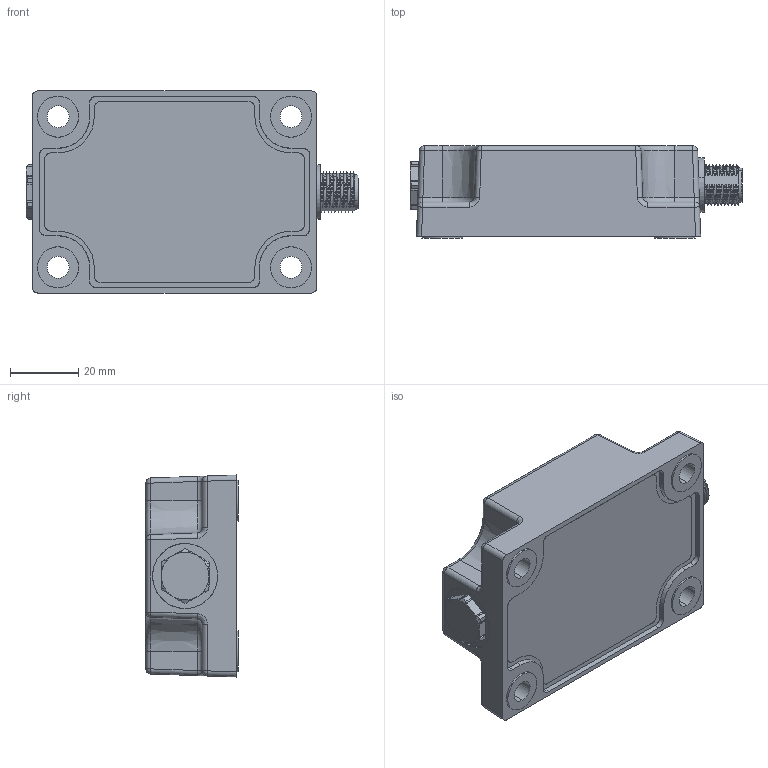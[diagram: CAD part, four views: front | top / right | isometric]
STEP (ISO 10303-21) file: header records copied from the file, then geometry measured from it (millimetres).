
FILE_DESCRIPTION (( 'STEP AP203' ), '1' );
FILE_NAME ('ACS-xxx-x-Sxxx-xK2-PM.STEP', '2014-04-09T09:54:54', ( '' ), ( '' ), 'SwSTEP 2.0', 'SolidWorks 2014', '' );
FILE_SCHEMA (( 'CONFIG_CONTROL_DESIGN' ));
Length unit declared in the file: millimetre
Products named in the file (1): ACS-xxx-x-Sxxx-xK2-PM
Bounding box: 96.95 x 27 x 59 mm (x, y, z)
Volume: 50650.7 mm3; surface area: 34731.8 mm2
Topology: 6 solids, 6 shells, 559 faces, 1517 edges, 987 vertices
Faces by surface type: plane 201, cylinder 193, bspline 73, cone 50, torus 22, sphere 20
Entity records: 30750 total; most frequent: CARTESIAN_POINT 17700, ORIENTED_EDGE 2946, DIRECTION 2437, EDGE_CURVE 1473, VERTEX_POINT 971, AXIS2_PLACEMENT_3D 865, VECTOR 707, LINE 707
